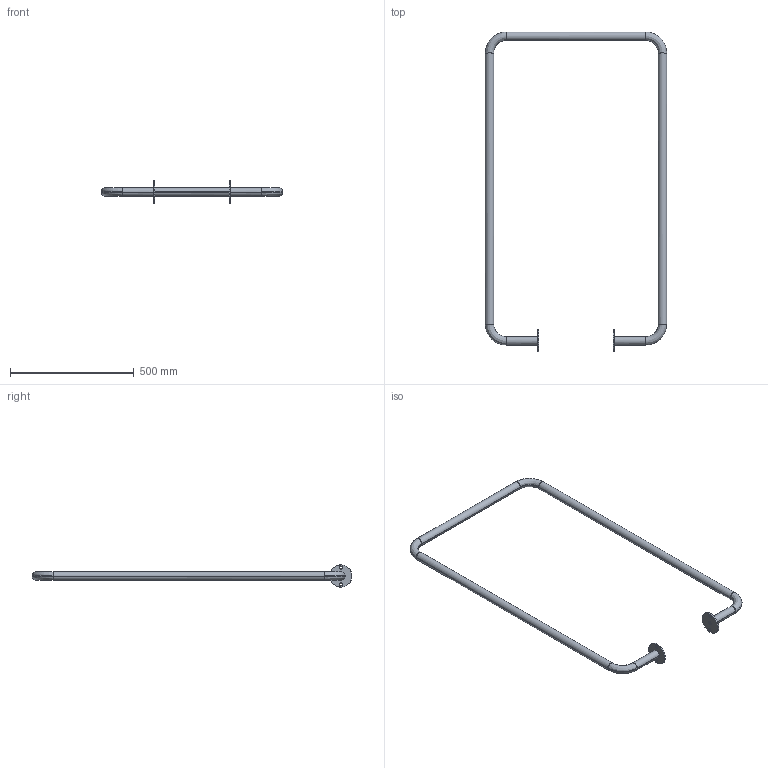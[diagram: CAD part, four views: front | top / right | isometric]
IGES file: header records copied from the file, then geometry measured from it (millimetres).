
Start section:  PTC IGES file: 100086-600.igs
Global section: file name: 100086-600.igs; native system: Creo Parametric by Parametric Technology Corporation; preprocessor: 2017170; author: stat; organization: Unknown; date: 20181127.090211; units: millimetre
Bounding box: 733.7 x 1294.95 x 90 mm (x, y, z)
Surface area: 712608.5 mm2 (no closed solid volume)
Topology: 0 solids, 0 shells, 58 faces, 248 edges, 248 vertices
Faces by surface type: revolution 52, bspline 6
